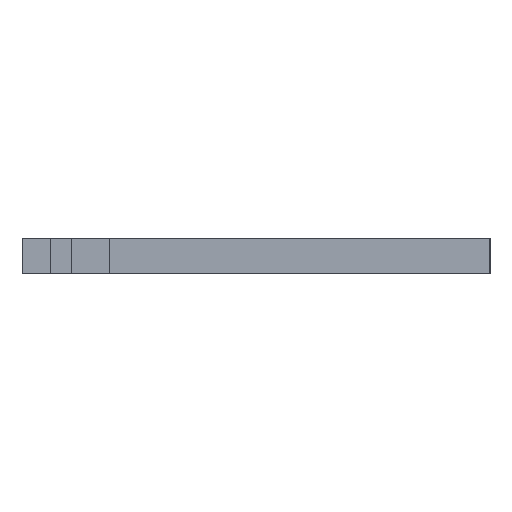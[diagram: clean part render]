
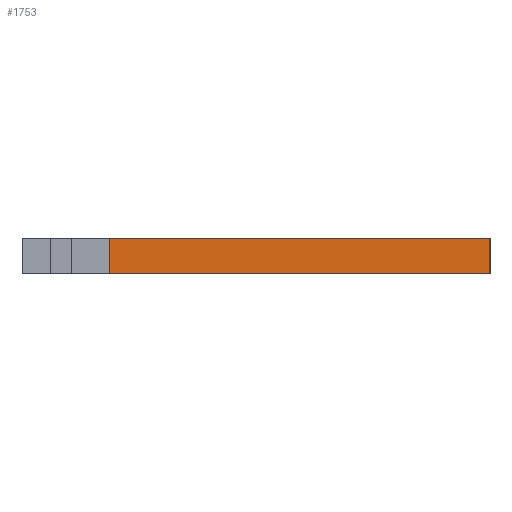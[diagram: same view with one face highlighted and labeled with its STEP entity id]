
A CAD part, left-side view. The second image highlights one B-rep face of the part: STEP entity #1753.
In plain terms, the highlighted planar face has unit normal (-1, 0, 0).
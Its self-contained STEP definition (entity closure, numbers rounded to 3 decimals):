
#217=PLANE('',#1925);
#333=FACE_OUTER_BOUND('',#415,.T.);
#415=EDGE_LOOP('',(#1485,#1486,#1487,#1488));
#599=LINE('',#2768,#749);
#600=LINE('',#2771,#750);
#601=LINE('',#2773,#751);
#602=LINE('',#2774,#752);
#749=VECTOR('',#2319,10.);
#750=VECTOR('',#2322,10.);
#751=VECTOR('',#2323,10.);
#752=VECTOR('',#2324,10.);
#987=VERTEX_POINT('',#2764);
#988=VERTEX_POINT('',#2766);
#989=VERTEX_POINT('',#2770);
#990=VERTEX_POINT('',#2772);
#1193=EDGE_CURVE('',#987,#988,#599,.T.);
#1194=EDGE_CURVE('',#987,#989,#600,.T.);
#1195=EDGE_CURVE('',#990,#988,#601,.T.);
#1196=EDGE_CURVE('',#989,#990,#602,.T.);
#1485=ORIENTED_EDGE('',*,*,#1194,.F.);
#1486=ORIENTED_EDGE('',*,*,#1193,.T.);
#1487=ORIENTED_EDGE('',*,*,#1195,.F.);
#1488=ORIENTED_EDGE('',*,*,#1196,.F.);
#1753=ADVANCED_FACE('',(#333),#217,.T.);
#1925=AXIS2_PLACEMENT_3D('',#2769,#2320,#2321);
#2319=DIRECTION('',(0.,0.,-1.));
#2320=DIRECTION('center_axis',(-1.,0.,0.));
#2321=DIRECTION('ref_axis',(0.,1.,0.));
#2322=DIRECTION('',(0.,-1.,0.));
#2323=DIRECTION('',(0.,1.,0.));
#2324=DIRECTION('',(0.,0.,-1.));
#2764=CARTESIAN_POINT('',(-165.75,20.85,0.));
#2766=CARTESIAN_POINT('',(-165.75,20.85,-5.));
#2768=CARTESIAN_POINT('',(-165.75,20.85,0.));
#2769=CARTESIAN_POINT('Origin',(-165.75,-33.35,0.));
#2770=CARTESIAN_POINT('',(-165.75,-33.35,0.));
#2771=CARTESIAN_POINT('',(-165.75,20.85,0.));
#2772=CARTESIAN_POINT('',(-165.75,-33.35,-5.));
#2773=CARTESIAN_POINT('',(-165.75,20.85,-5.));
#2774=CARTESIAN_POINT('',(-165.75,-33.35,0.));
